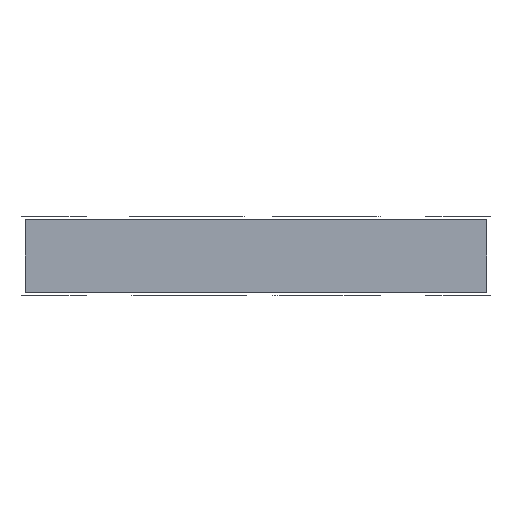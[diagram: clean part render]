
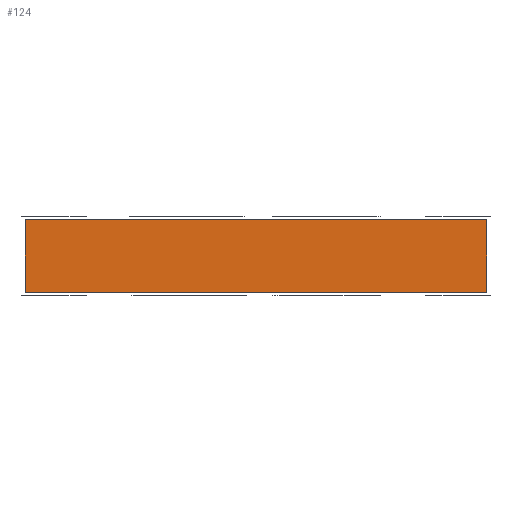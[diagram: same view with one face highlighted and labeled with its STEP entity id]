
A CAD part, front view. The second image highlights one B-rep face of the part: STEP entity #124.
In plain terms, the highlighted planar face has unit normal (0, -1, 0).
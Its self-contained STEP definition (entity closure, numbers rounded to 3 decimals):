
#88 = EDGE_CURVE('',#89,#91,#93,.T.);
#89 = VERTEX_POINT('',#90);
#90 = CARTESIAN_POINT('',(44.92,-175.4,0.));
#91 = VERTEX_POINT('',#92);
#92 = CARTESIAN_POINT('',(44.92,-175.4,-1.6));
#93 = LINE('',#94,#95);
#94 = CARTESIAN_POINT('',(44.92,-175.4,0.));
#95 = VECTOR('',#96,1.);
#96 = DIRECTION('',(0.,0.,-1.));
#124 = ADVANCED_FACE('',(#125),#150,.F.);
#125 = FACE_BOUND('',#126,.F.);
#126 = EDGE_LOOP('',(#127,#137,#143,#144));
#127 = ORIENTED_EDGE('',*,*,#128,.T.);
#128 = EDGE_CURVE('',#129,#131,#133,.T.);
#129 = VERTEX_POINT('',#130);
#130 = CARTESIAN_POINT('',(55.08,-175.4,0.));
#131 = VERTEX_POINT('',#132);
#132 = CARTESIAN_POINT('',(55.08,-175.4,-1.6));
#133 = LINE('',#134,#135);
#134 = CARTESIAN_POINT('',(55.08,-175.4,0.));
#135 = VECTOR('',#136,1.);
#136 = DIRECTION('',(0.,0.,-1.));
#137 = ORIENTED_EDGE('',*,*,#138,.T.);
#138 = EDGE_CURVE('',#131,#91,#139,.T.);
#139 = LINE('',#140,#141);
#140 = CARTESIAN_POINT('',(55.08,-175.4,-1.6));
#141 = VECTOR('',#142,1.);
#142 = DIRECTION('',(-1.,0.,0.));
#143 = ORIENTED_EDGE('',*,*,#88,.F.);
#144 = ORIENTED_EDGE('',*,*,#145,.F.);
#145 = EDGE_CURVE('',#129,#89,#146,.T.);
#146 = LINE('',#147,#148);
#147 = CARTESIAN_POINT('',(55.08,-175.4,0.));
#148 = VECTOR('',#149,1.);
#149 = DIRECTION('',(-1.,0.,0.));
#150 = PLANE('',#151);
#151 = AXIS2_PLACEMENT_3D('',#152,#153,#154);
#152 = CARTESIAN_POINT('',(55.08,-175.4,0.));
#153 = DIRECTION('',(0.,1.,0.));
#154 = DIRECTION('',(-1.,0.,0.));
